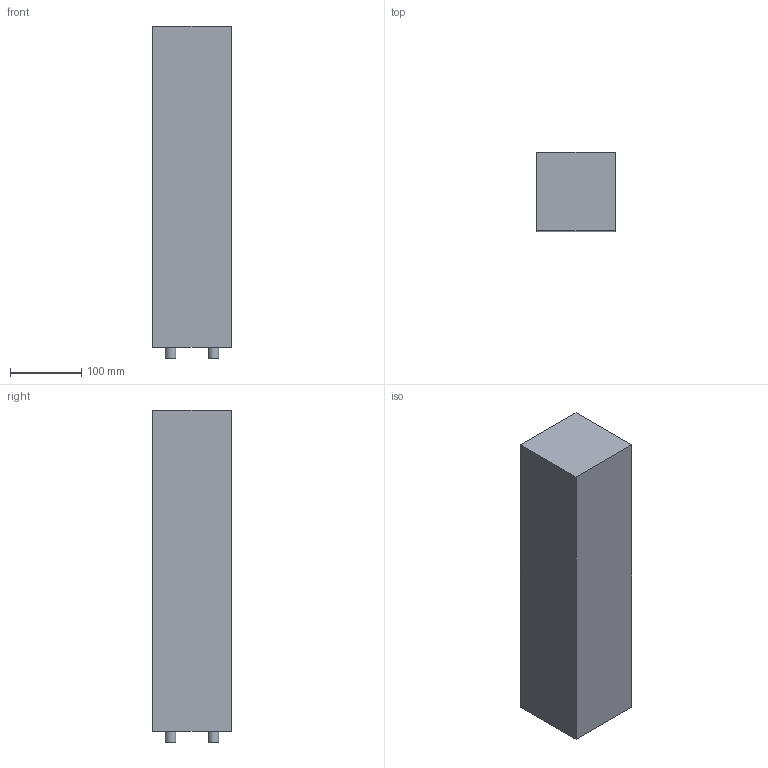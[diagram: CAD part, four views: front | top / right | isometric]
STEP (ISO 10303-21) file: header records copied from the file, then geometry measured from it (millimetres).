
FILE_DESCRIPTION(/* description */ (''),/* implementation_level */ '2;1');
FILE_NAME(/* name */ 'C:/Users/LukasGröber/GMS Cloud/Groeber Mannheim Lichtwerke - Dokumente/Marketing/Produkte/3D Daten/Lichtsäule Eifel im Herbst/Lichtsäule Eifel im Herbst 45.step',/* time_stamp */ '2022-07-06T16:18:29+02:00',/* author */ (''),/* organization */ (''),/* preprocessor_version */ 'ST-DEVELOPER v19',/* originating_system */ 'Autodesk Translation Framework v11.7.0.108',/* authorisation */ '');
FILE_SCHEMA (('AUTOMOTIVE_DESIGN { 1 0 10303 214 3 1 1 }'));
Length unit declared in the file: millimetre
Products named in the file (1): Lichtsäule Eifel im Herbst 45
Bounding box: 110 x 110 x 465 mm (x, y, z)
Volume: 5455602.9 mm3; surface area: 226441.2 mm2
Topology: 5 solids, 5 shells, 18 faces, 24 edges, 16 vertices
Faces by surface type: plane 14, cylinder 4
Full cylindrical faces by diameter (mm): 15 x4
Entity records: 424 total; most frequent: DIRECTION 70, CARTESIAN_POINT 59, ORIENTED_EDGE 48, AXIS2_PLACEMENT_3D 27, EDGE_CURVE 24, FACE_OUTER_BOUND 18, EDGE_LOOP 18, ADVANCED_FACE 18
